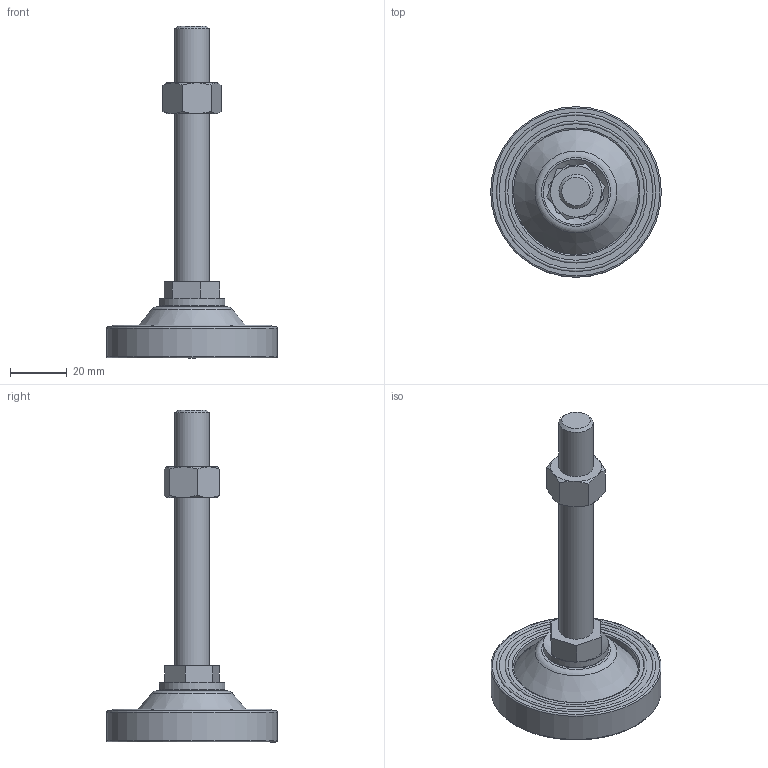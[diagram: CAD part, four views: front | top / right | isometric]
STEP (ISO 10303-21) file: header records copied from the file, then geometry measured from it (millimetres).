
FILE_DESCRIPTION((' '),'2;1');
FILE_NAME('Y:\00. A standard brand\06. 3D Modeling\외부전송용_STEP\LEVELLING FOOT(STEP)\A-PLR SERIES STEP\A-PLR-12-90.stp.stp','2011-11-22T18:37:59',(' '),(' '),' ','ACIS',' ');
FILE_SCHEMA(('CONFIG_CONTROL_DESIGN'));
Length unit declared in the file: millimetre
Products named in the file (1): Y:\00. A standard brand\06. 3D Modeling\외부전송용_STEP\LEVELLING FOOT(STEP)\A-PLR SERIES STEP\A-PLR-12-90.stp.stp
Bounding box: 60 x 60 x 116.75 mm (x, y, z)
Volume: 42789.4 mm3; surface area: 19037.8 mm2
Topology: 2 solids, 3 shells, 116 faces, 264 edges, 166 vertices
Faces by surface type: plane 54, cylinder 20, cone 17, torus 15, bspline 10
Full cylindrical faces by diameter (mm): 8 x1, 12 x4, 16 x1, 19.27 x1, 23 x1, 31 x1, 44 x2, 60 x1
Entity records: 3468 total; most frequent: CARTESIAN_POINT 1043, DIRECTION 478, ORIENTED_EDGE 428, EDGE_CURVE 214, AXIS2_PLACEMENT_3D 193, EDGE_LOOP 164, VERTEX_POINT 152, FACE_OUTER_BOUND 116
